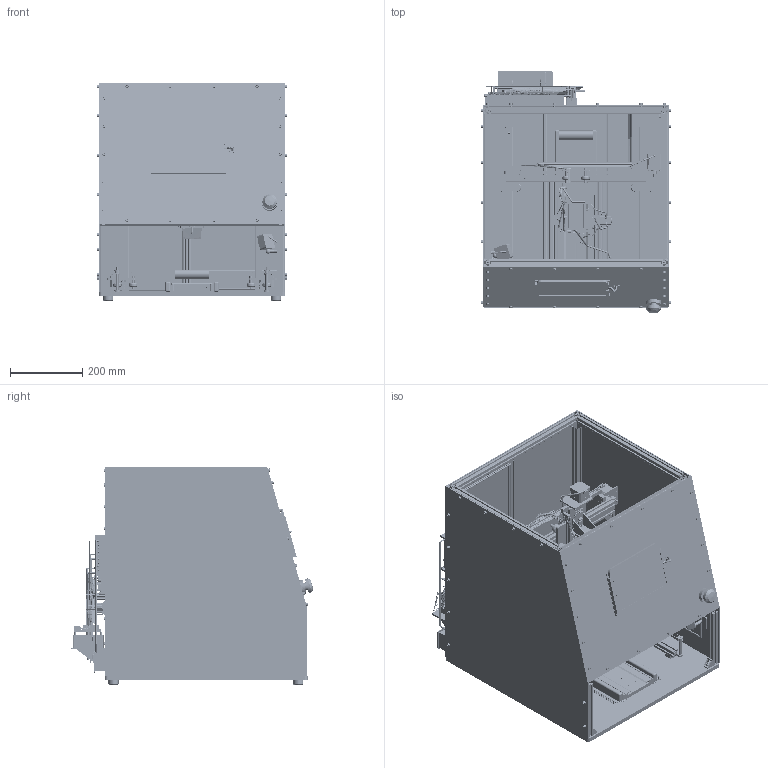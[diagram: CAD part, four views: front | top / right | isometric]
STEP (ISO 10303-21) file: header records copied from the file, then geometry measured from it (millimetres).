
FILE_DESCRIPTION(('Open CASCADE Model'),'2;1');
FILE_NAME('Open CASCADE Shape Model','2026-11-26T01:08:00',('Author'),( 'Open CASCADE'),'Open CASCADE STEP processor 7.9','Open CASCADE 7.9' ,'Unknown');
FILE_SCHEMA(('AUTOMOTIVE_DESIGN { 1 0 10303 214 1 1 1 1 }'));
Length unit declared in the file: millimetre
Products named in the file (426): UltraVena_rig_butterfly; wiring; wire_inlet_to_psu; wire_psu_to_fuse_block; wire_fuse_to_12V_converter; wire_fuse_to_5V_converter; wire_12V_to_jetson; wire_servo_converter_to_bus_adapter; wire_hub_to_servo_bus_adapter; wire_5V_to_usb_hub; wire_jetson_to_usb_hub; wire_hub_to_teensy; wire_hub_to_motion_controller; wire_fuse_to_estop; wire_estop_to_relay_coil; wire_fuse_to_relay_contact; wire_relay_to_motion_bus; wire_estop_bus_to_servo_converter; wire_estop_bus_to_motion_controller; wire_hub_to_webcam_overhead; wire_hub_to_webcam_side; wire_12V_to_led_strips; wire_led_jumper_back_to_left; wire_led_jumper_back_to_right; wire_led_jumper_left_to_front; wire_controller_to_y_stepper_left; wire_controller_to_y_stepper_right; wire_controller_to_limit_switch_y; wire_teensy_to_pressure_pad_1; wire_teensy_to_pressure_pad_2; wire_teensy_to_pressure_pad_3; wire_teensy_to_pressure_pad_4; wire_teensy_to_pressure_pad_5; wire_teensy_to_pressure_pad_6; wire_controller_to_x_stepper; wire_controller_to_limit_switch_x; wire_controller_to_z_stepper; wire_controller_to_limit_switch_z; wire_teensy_to_head_board_serial; wire_5V_to_head_board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
Assembly tree (611 placements, depth 10):
  UltraVena_rig_butterfly
    wiring
      wire_inlet_to_psu
      wire_psu_to_fuse_block
      wire_fuse_to_12V_converter
      wire_fuse_to_5V_converter
      wire_12V_to_jetson
      wire_servo_converter_to_bus_adapter
      wire_hub_to_servo_bus_adapter
      wire_5V_to_usb_hub
      wire_jetson_to_usb_hub
      wire_hub_to_teensy
      wire_hub_to_motion_controller
      wire_fuse_to_estop
      wire_estop_to_relay_coil
      wire_fuse_to_relay_contact
      wire_relay_to_motion_bus
      wire_estop_bus_to_servo_converter
      wire_estop_bus_to_motion_controller
      wire_hub_to_webcam_overhead
      wire_hub_to_webcam_side
      wire_12V_to_led_strips
      wire_led_jumper_back_to_left
      wire_led_jumper_back_to_right
      wire_led_jumper_left_to_front
      wire_controller_to_y_stepper_left
      wire_controller_to_y_stepper_right
      wire_controller_to_limit_switch_y
      wire_teensy_to_pressure_pad_1
      wire_teensy_to_pressure_pad_2
      wire_teensy_to_pressure_pad_3
      wire_teensy_to_pressure_pad_4
      wire_teensy_to_pressure_pad_5
      wire_teensy_to_pressure_pad_6
      wire_controller_to_x_stepper
      wire_controller_to_limit_switch_x
      wire_controller_to_z_stepper
      wire_controller_to_limit_switch_z
      wire_teensy_to_head_board_serial
      wire_5V_to_head_board
      wire_head_board_to_load_cell_amp
      wire_load_cell_to_amp
      wire_teensy_to_overtravel_switch
      wire_servo_bus_adapter_to_yaw_servo
      wire_servo_bus_yaw_to_pitch
      wire_servo_bus_pitch_to_roll
      wire_head_board_to_tilt_sensor
      wire_tilt_sensor_to_distance_sensors
      wire_distance_sensor_chain_back
      wire_distance_sensor_chain_front
      wire_head_board_to_marker_servo
      wire_probe_cable_to_ipad
    electronics_bay
      psu_24V_350W
        psu_24V_350W__case
        psu_24V_350W__internals
        psu_24V_350W__terminal_block
        psu_24V_350W__terminal_screws
      fuse_block
        fuse_block__base
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Bounding box: 526 x 670.93 x 604 mm (x, y, z)
Volume: 12667940.8 mm3; surface area: 5815214 mm2
Topology: 2712 solids, 2712 shells, 11317 faces, 19414 edges, 12745 vertices
Faces by surface type: plane 7604, cylinder 2534, sphere 1117, bspline 31, cone 31
Full cylindrical faces by diameter (mm): 2 x525, 2.2 x68, 2.4 x92, 2.5 x16, 2.6 x64, 2.8 x16, 3 x186, 3.2 x14, 3.4 x60, 3.5 x10, 3.6 x63, 3.8 x110, 4 x146, 4.2 x40, 4.4 x27, 4.8 x10, 5 x104, 5.1 x42, 5.2 x142, 5.4 x110, 6 x44, 6.2 x10, 6.4 x2, 6.8 x2, 7 x2, 7.2 x1, 7.8 x2, 8 x48, 8.5 x90, 10 x38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
Entity records: 531005 total; most frequent: CARTESIAN_POINT 180022, DIRECTION 67019, LINE 30882, VECTOR 30882, ORIENTED_EDGE 28246, PCURVE 28246, DEFINITIONAL_REPRESENTATION 28246, AXIS2_PLACEMENT_3D 15952
